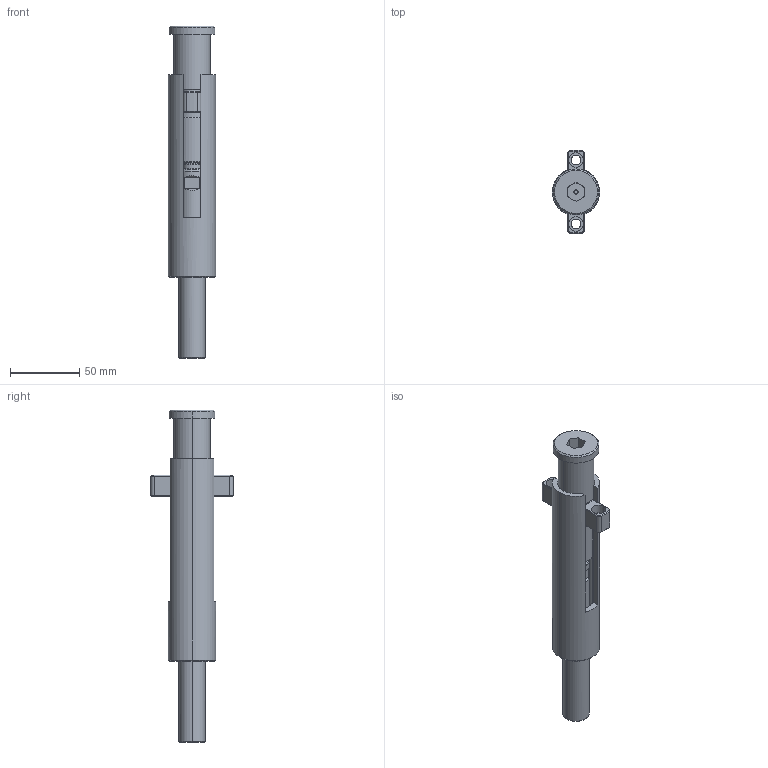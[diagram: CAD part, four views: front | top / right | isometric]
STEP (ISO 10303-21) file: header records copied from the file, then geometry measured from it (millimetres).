
FILE_DESCRIPTION (( 'STEP AP203' ), '1' );
FILE_NAME ('DKL3421.STEP', '2013-08-26T10:46:10', ( '' ), ( '' ), 'SwSTEP 2.0', 'SolidWorks 2013', '' );
FILE_SCHEMA (( 'CONFIG_CONTROL_DESIGN' ));
Length unit declared in the file: millimetre
Products named in the file (9): DKL3021; DKL3041; DKL3081; DKL3072; DKL3011; DKL3421; DKL3031; DKL3062; DKL3051
Assembly tree (11 placements, depth 2):
  DKL3421
    DKL3031
    DKL3062  x4
    DKL3051
    DKL3021
    DKL3041
    DKL3081
    DKL3072
    DKL3011
Bounding box: 34 x 59.94 x 239 mm (x, y, z)
Volume: 136015 mm3; surface area: 57956.1 mm2
Topology: 11 solids, 11 shells, 489 faces, 1151 edges, 692 vertices
Faces by surface type: plane 158, cylinder 142, cone 127, torus 56, bspline 6
Entity records: 16486 total; most frequent: CARTESIAN_POINT 5884, DIRECTION 2155, ORIENTED_EDGE 1918, EDGE_CURVE 959, AXIS2_PLACEMENT_3D 870, VERTEX_POINT 581, EDGE_LOOP 452, CIRCLE 451
